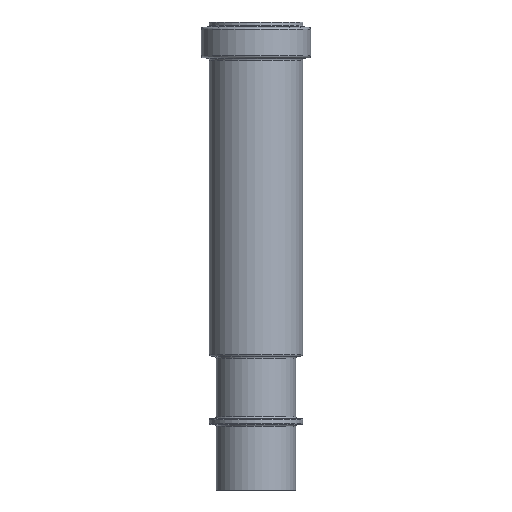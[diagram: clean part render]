
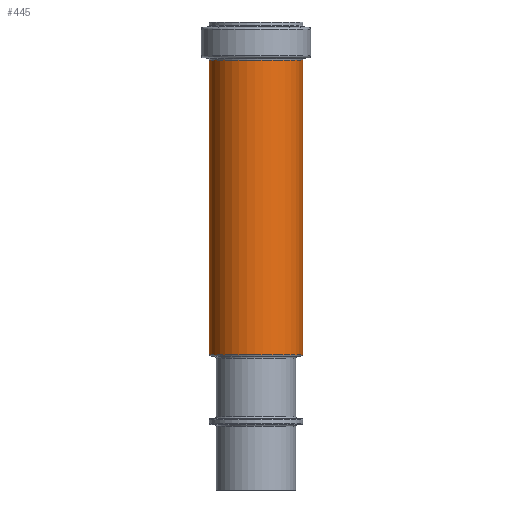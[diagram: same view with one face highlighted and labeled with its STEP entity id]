
A CAD part, front view. The second image highlights one B-rep face of the part: STEP entity #445.
In plain terms, the highlighted cylindrical face has radius 23.6 mm (diameter 47.2 mm), a full revolution.
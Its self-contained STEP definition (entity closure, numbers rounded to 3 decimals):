
#28=CYLINDRICAL_SURFACE('',#511,23.6);
#47=FACE_BOUND('',#136,.T.);
#85=FACE_OUTER_BOUND('',#135,.T.);
#135=EDGE_LOOP('',(#325));
#136=EDGE_LOOP('',(#326));
#191=CIRCLE('',#493,23.6);
#201=CIRCLE('',#512,23.6);
#229=VERTEX_POINT('',#728);
#239=VERTEX_POINT('',#757);
#267=EDGE_CURVE('',#229,#229,#191,.T.);
#277=EDGE_CURVE('',#239,#239,#201,.T.);
#325=ORIENTED_EDGE('',*,*,#277,.T.);
#326=ORIENTED_EDGE('',*,*,#267,.T.);
#445=ADVANCED_FACE('',(#85,#47),#28,.T.);
#493=AXIS2_PLACEMENT_3D('',#729,#579,#580);
#511=AXIS2_PLACEMENT_3D('',#756,#615,#616);
#512=AXIS2_PLACEMENT_3D('',#758,#617,#618);
#579=DIRECTION('center_axis',(0.,0.,-1.));
#580=DIRECTION('ref_axis',(-0.878,-0.479,0.));
#615=DIRECTION('center_axis',(0.,0.,1.));
#616=DIRECTION('ref_axis',(1.,0.,0.));
#617=DIRECTION('center_axis',(0.,0.,1.));
#618=DIRECTION('ref_axis',(-0.878,-0.479,0.));
#728=CARTESIAN_POINT('',(-20.711,-11.314,-19.28));
#729=CARTESIAN_POINT('Origin',(0.,0.,
-19.28));
#756=CARTESIAN_POINT('Origin',(0.,0.,-118.377));
#757=CARTESIAN_POINT('',(20.711,11.314,-168.447));
#758=CARTESIAN_POINT('Origin',(0.,0.,-168.447));
